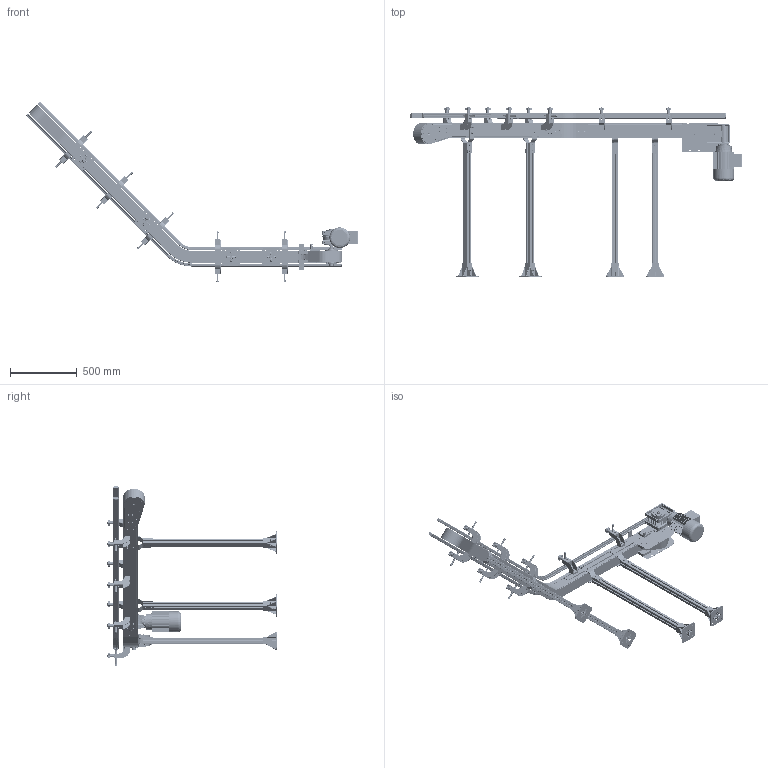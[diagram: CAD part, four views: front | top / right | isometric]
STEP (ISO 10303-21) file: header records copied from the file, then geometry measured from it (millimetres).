
FILE_DESCRIPTION (( 'STEP AP203' ), '1' );
FILE_NAME ('NASTRO_CATENA.step', '2026-05-28T12:47:49', ( 'Utente Windows' ), ( '' ), 'SwSTEP 2.0', 'SolidWorks 2024', '' );
FILE_SCHEMA (( 'CONFIG_CONTROL_DESIGN' ));
Length unit declared in the file: millimetre
Products named in the file (75): DADI ESAGONALI AUTOBLOCCANTI UNI 7473 INOX_M6 UNI 7473 INOX; VITI TE UNI 5739 INOX_M8x20 UNI 5739 INOX; 084.302.000 DADI ALUSIC 13x13-1_084.302.004; 2000.325.105-2; 084.711.002; CH06P_DX; 084.302.000 DADI ALUSIC 13x13-1_084.302.008; RONDELLE FASCIA LARGA UNI 6593 INOX_8.4x32 UNI 6593 INOX; 084.802.027; GRANI A PUNTA PIATTA UNI 5923_M8x20 UNI 5923; 2000.001.212; FLANGIA_GAMBE_KP325; VITI TE UNI 5739 INOX_M6x30 UNI 5739 INOX; VITI TCEI UNI 5931 INOX_M6x30 UNI 5931 INOX; RONDELLE FASCIA LARGA UNI 6593 INOX_8.4x24 UNI 6593 INOX; 2000.001.006-2; NASTRO_CATENA; 2000.001.402; GRANI A PUNTA CONICA UNI 5927_M8x16 UNI 5927; PROFILO POLIZENE_209<A macchina>; VITI TSEI UNI 5933 INOX_0410UNI5933A2; 2000.001.201-3; VITI TE UNI 5739_M8x20 UNI 5739; 2000.325.446; GRANI A PUNTA CONICA UNI 5927 INOX_M8x14 UNI 5927 INOX; 2000.325.201-1S; 084.808.005-1; CHIAVETTE_A 8x7x50 UNI 6604-69; CATENA_LDX; 084.711.004; 084.312.006; 2000.325.104-2; 084.201.012-1; 2000.001.001; 084.409.002; 2000.325.003; 2000.001.213; K325_45°_S_P; K325_DIR_63_P_DX_MOTORE A DESTRA; 2000.001.002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
Assembly tree (215 placements, depth 4):
  NASTRO_CATENA
    K325_1_Default<A macchina>
    K325_7_Default<A macchina>
    K325_DIR_63_P_DX_MOTORE A DESTRA
      084.802.027
      2000.001.006-2  x2
      2000.325.003  x2
      2000.001.001  x2
      2000.325.001_Default<Lavorato>  x2
      2000.325.104-2
      2000.001.004-3
      084.808.005-1
      2000.325.102
      2000.001.011
      2000.001.003-3
      2000.325.105-2
      CHIAVETTE_A 8x7x50 UNI 6604-69  x3
      SBPF205  x2
      663151_NS880T12R25
      VITI TSEI UNI 5933 INOX_0410UNI5933A2  x8
      GRANI A PUNTA CONICA UNI 5927_M8x16 UNI 5927  x8
      VITI TCEI UNI 5931 INOX_M6x30 UNI 5931 INOX  x2
      VITI TE UNI 5739 INOX_M8x20 UNI 5739 INOX
      RONDELLE FASCIA LARGA UNI 6593 INOX_8.4x32 UNI 6593 INOX
      GRANI A PUNTA PIATTA UNI 5923_M8x20 UNI 5923
      RONDELLE FASCIA LARGA UNI 6593 INOX_8.4x24 UNI 6593 INOX
      VITI TE UNI 5739 INOX_M8x16 UNI 5739 INOX  x7
      DADI ESAGONALI AUTOBLOCCANTI UNI 7473 INOX_M6 UNI 7473 INOX  x4
      PU008.012.025N
      084.312.006  x6
      VITI TE UNI 5739 INOX_M6x30 UNI 5739 INOX  x4
      VITI TE UNI 5739 INOX_M6x20 UNI 5739 INOX  x6
    K325_45°_S_P
      2000.325.448_2000.1200.490  x2
      2000.325.429_Default<A macchina>  x2
      2000.001.402  x4
      2000.325.447
      2000.325.446
      VITI TSEI UNI 5933 INOX_0620UNI5933A2  x8
      VITI TSEI UNI 5933 INOX_0816UNI5933A2  x8
      084.302.000 DADI ALUSIC 13x13-1_084.302.008  x8
      GRANI A PUNTA CONICA UNI 5927 INOX_M8x14 UNI 5927 INOX  x16
    K325_R_P
      2000.001.201-3
      2000.001.202-3
      PROFILO POLIZENE_209<A macchina>  x2
      2000.325.201-1S
      2000.325.205-4
      2000.325.204-4
      2000.001.002  x2
      2000.001.001  x2
      2000.325.001_Default<Lavorato>  x2
      2000.001.213
        2000.001.212  x2
        0630UNI8735  x2
    GAMBE_KP325_Default<A macchina>  x4
    FLANGIA_GAMBE_KP325  x8
      2000.325.620
      084.302.016
      084.301.000 VITI ALUSIC_084.301.002
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Bounding box: 2486.35 x 1267.82 x 1352.06 mm (x, y, z)
Volume: 26941432.3 mm3; surface area: 10433288.4 mm2
Topology: 399 solids, 410 shells, 11996 faces, 29793 edges, 18809 vertices
Faces by surface type: plane 5683, cylinder 4218, cone 1144, torus 664, bspline 227, sphere 60
Entity records: 144992 total; most frequent: CARTESIAN_POINT 27037, DIRECTION 23047, ORIENTED_EDGE 21632, EDGE_CURVE 10827, AXIS2_PLACEMENT_3D 8222, VERTEX_POINT 6811, VECTOR 6603, LINE 6603
